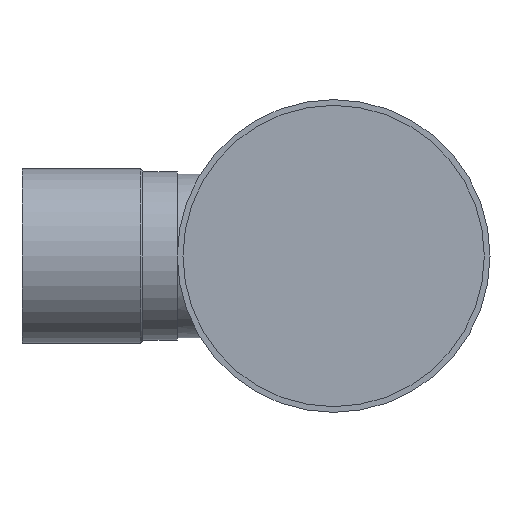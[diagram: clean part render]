
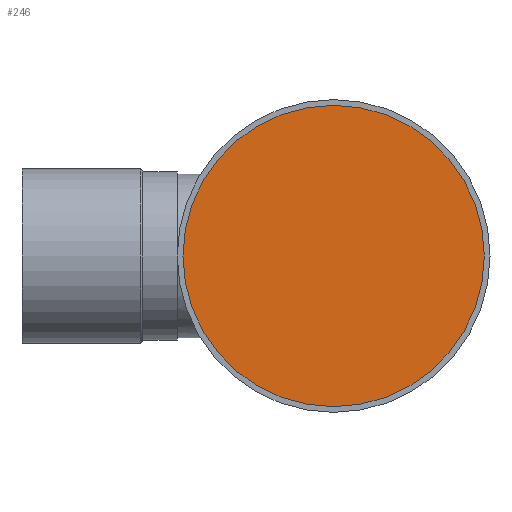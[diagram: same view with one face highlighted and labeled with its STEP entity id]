
A CAD part, front view. The second image highlights one B-rep face of the part: STEP entity #246.
In plain terms, the highlighted planar face has unit normal (0, -1, 0).
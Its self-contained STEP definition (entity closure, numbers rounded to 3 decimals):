
#36=PLANE('',#298);
#69=ORIENTED_EDGE('',*,*,#93,.F.);
#93=EDGE_CURVE('',#114,#114,#135,.T.);
#114=VERTEX_POINT('',#428);
#135=CIRCLE('',#287,69.85);
#173=EDGE_LOOP('',(#69));
#215=FACE_BOUND('',#173,.T.);
#246=ADVANCED_FACE('',(#215),#36,.F.);
#287=AXIS2_PLACEMENT_3D('',#427,#352,#353);
#298=AXIS2_PLACEMENT_3D('',#497,#374,#375);
#352=DIRECTION('',(0.,1.,0.));
#353=DIRECTION('',(0.,0.,1.));
#374=DIRECTION('',(0.,1.,0.));
#375=DIRECTION('',(0.,0.,1.));
#427=CARTESIAN_POINT('',(0.,-99.,0.));
#428=CARTESIAN_POINT('',(0.,-99.,69.85));
#497=CARTESIAN_POINT('',(0.,-99.,0.));
